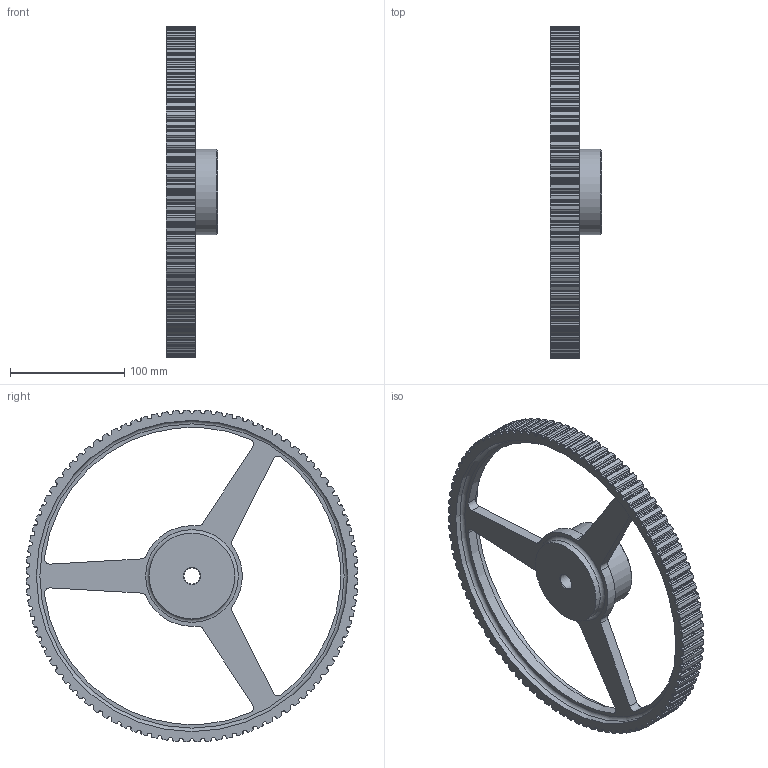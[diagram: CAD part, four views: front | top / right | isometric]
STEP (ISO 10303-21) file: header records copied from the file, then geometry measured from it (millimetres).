
FILE_DESCRIPTION(/* description */ ('PULEGGE 96 L 075 '),/* implementation_level */ '2;1');
FILE_NAME(/* name */ 'w:\documenti\Disegni dwg\Catalogo\Pulegge\L\075\stp\42075096.stp',/* time_stamp */ '2023-05-18T14:08:42+02:00',/* author */ ('carlo.bersi'),/* organization */ (''),/* preprocessor_version */ 'ST-DEVELOPER v19',/* originating_system */ 'Autodesk Inventor 2023',/* authorisation */ '');
FILE_SCHEMA (('CONFIG_CONTROL_DESIGN'));
Length unit declared in the file: millimetre
Products named in the file (1): 42075096
Bounding box: 45 x 290.24 x 290.24 mm (x, y, z)
Volume: 497653 mm3; surface area: 114658.8 mm2
Topology: 1 solids, 1 shells, 810 faces, 2409 edges, 1605 vertices
Faces by surface type: cylinder 503, plane 300, torus 4, cone 3
Full cylindrical faces by diameter (mm): 14 x1, 75 x2, 272 x2
Entity records: 27649 total; most frequent: DIRECTION 5052, CARTESIAN_POINT 4825, ORIENTED_EDGE 4818, EDGE_CURVE 2409, AXIS2_PLACEMENT_3D 1832, VERTEX_POINT 1605, LINE 1388, VECTOR 1388
